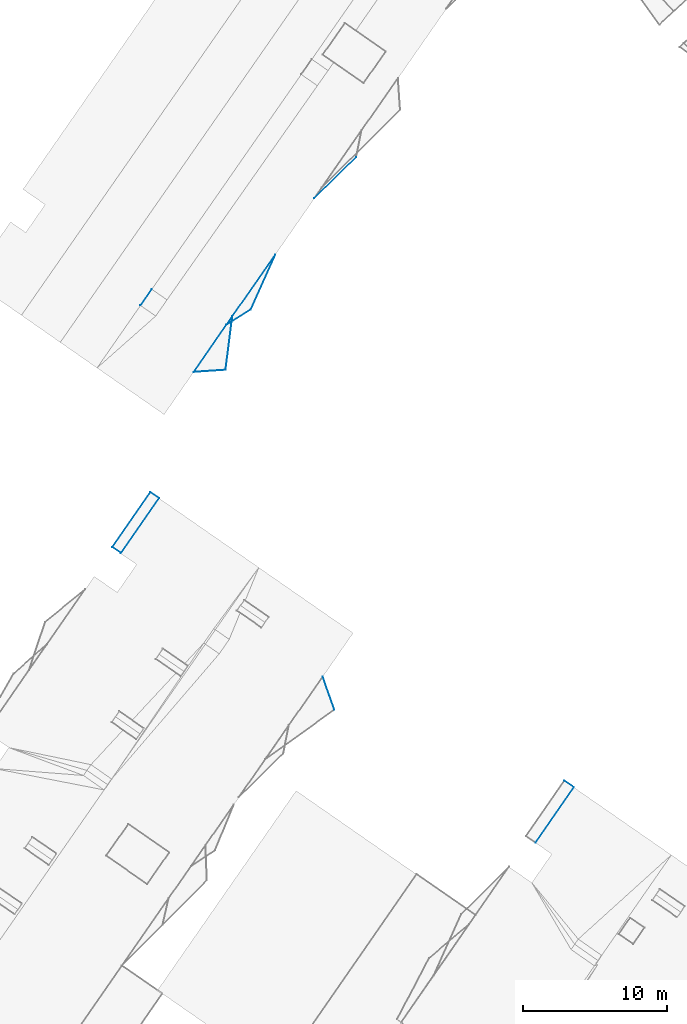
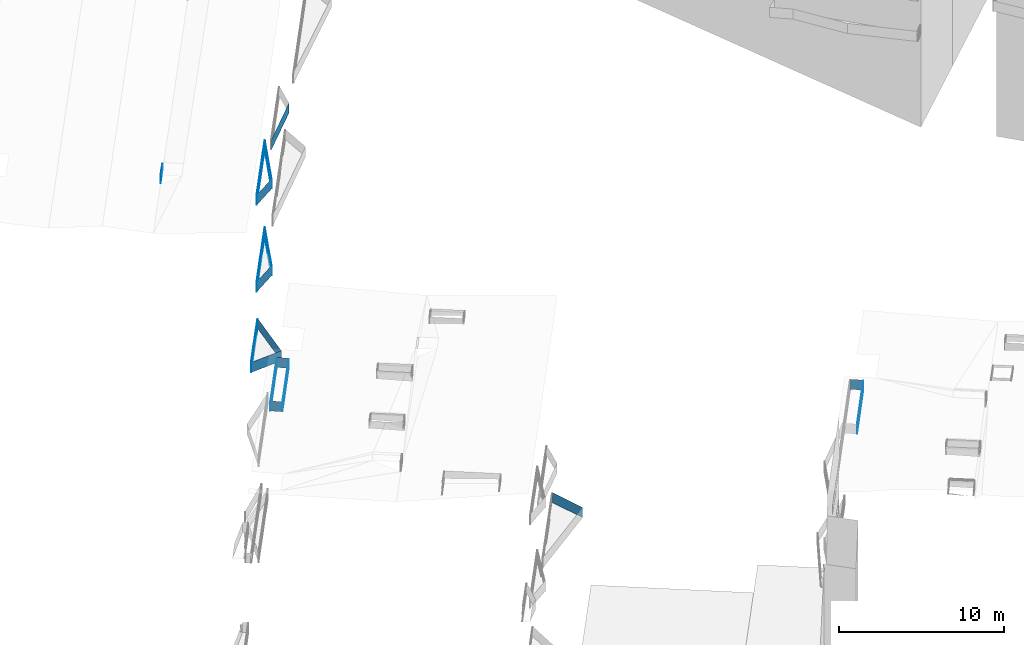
# Not in any storey, part 43 of 136: 41 walls.
"""IFC4 building model written with IfcOpenShell, lengths in metres."""

from ifc_helpers import new_model, entity, si_unit, converted_unit, frame, origin, place, context, subcontext, project, spatial, face_set, surface_model, element, save


model = new_model("IFC4")

# Units and contexts
model_context = context("Model", 3, precision=1e-05, world=origin())
body_context = subcontext(model_context, "Body", "Model", "MODEL_VIEW")
ifc_project = project(units=[converted_unit("PLANEANGLEUNIT", "DEGREE", entity("IfcRatioMeasure", 0.0174532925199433), si_unit("PLANEANGLEUNIT", "RADIAN"), dimensions=[0, 0, 0, 0, 0, 0, 0]), si_unit("AREAUNIT", "SQUARE_METRE"), si_unit("LENGTHUNIT", "METRE")], contexts=[model_context])

# Site, building
site_placement = place(None, origin())
site = spatial("IfcSite", under=ifc_project, at=site_placement, Name="_site")
building_1_placement = place(site_placement, origin())
building_1 = spatial("IfcBuilding", under=site, at=building_1_placement, Name="_building")

# Walls
wall_1_placement = place(building_1_placement, origin())
element("IfcWall", 1, at=wall_1_placement, inside=building_1, Name="Wall", PredefinedType="NOTDEFINED", context=body_context, shape_type="SurfaceModel", body=[
    surface_model("IfcFaceBasedSurfaceModel", [(-8.21, 74.97, 48.01), (-10.87, 71.13, 48.01), (-10.87, 71.13, 48.76), (-8.21, 74.97, 48.76)], [face_set([[[0, 1, 2, 3]]])]),
])
for number, where, name in (
    (2, (0.0, 0.0, 0.0), "Wall"),
    (3, (0.0, 0.0, 0.0), "Wall"),
):
    element("IfcWall", number, at=place(building_1_placement, frame(where)), inside=building_1, Name=name, PredefinedType="NOTDEFINED", context=body_context, shape_type="SurfaceModel", body=[
        surface_model("IfcFaceBasedSurfaceModel", [(-8.87, 75.43, 48.01), (-8.21, 74.97, 48.01), (-8.21, 74.97, 48.76), (-8.87, 75.43, 48.76)], [face_set([[[0, 1, 2, 3]]])]),
    ])
wall_2_placement = place(building_1_placement, origin())
element("IfcWall", 4, at=wall_2_placement, inside=building_1, Name="Wall", PredefinedType="NOTDEFINED", context=body_context, shape_type="SurfaceModel", body=[
    surface_model("IfcFaceBasedSurfaceModel", [(-8.21, 74.97, 48.01), (-10.87, 71.13, 48.01), (-10.87, 71.13, 48.76), (-8.21, 74.97, 48.76)], [face_set([[[0, 1, 2, 3]]])]),
])

# Building
building_2_placement = place(site_placement, origin())
building_2 = spatial("IfcBuilding", under=site, at=building_2_placement, Name="_building")

# Walls
wall_3_placement = place(building_2_placement, origin())
element("IfcWall", 5, at=wall_3_placement, inside=building_2, Name="Wall", PredefinedType="NOTDEFINED", context=body_context, shape_type="SurfaceModel", body=[
    surface_model("IfcFaceBasedSurfaceModel", [(-30.61, 108.09, 50.71), (-32.29, 107.021, 50.71), (-32.29, 107.021, 51.46), (-30.61, 108.09, 51.46)], [face_set([[[0, 1, 2, 3]]])]),
])
wall_4_placement = place(building_2_placement, origin())
element("IfcWall", 6, at=wall_4_placement, inside=building_2, Name="Wall", PredefinedType="NOTDEFINED", context=body_context, shape_type="SurfaceModel", body=[
    surface_model("IfcFaceBasedSurfaceModel", [(-31.88, 107.61, 50.71), (-28.9, 111.89, 50.71), (-28.9, 111.89, 51.46), (-31.88, 107.61, 51.46)], [face_set([[[0, 1, 2, 3]]])]),
])
wall_5_placement = place(building_2_placement, origin())
element("IfcWall", 7, at=wall_5_placement, inside=building_2, Name="Wall", PredefinedType="NOTDEFINED", context=body_context, shape_type="SurfaceModel", body=[
    surface_model("IfcFaceBasedSurfaceModel", [(-32.29, 107.021, 50.71), (-31.88, 107.61, 50.71), (-31.88, 107.61, 51.46), (-32.29, 107.021, 51.46)], [face_set([[[0, 1, 2, 3]]])]),
])
wall_6_placement = place(building_2_placement, origin())
element("IfcWall", 8, at=wall_6_placement, inside=building_2, Name="Wall", PredefinedType="NOTDEFINED", context=body_context, shape_type="SurfaceModel", body=[
    surface_model("IfcFaceBasedSurfaceModel", [(-30.61, 108.09, 50.71), (-32.29, 107.021, 50.71), (-32.29, 107.021, 51.46), (-30.61, 108.09, 51.46)], [face_set([[[0, 1, 2, 3]]])]),
])
wall_7_placement = place(building_2_placement, origin())
element("IfcWall", 9, at=wall_7_placement, inside=building_2, Name="Wall", PredefinedType="NOTDEFINED", context=body_context, shape_type="SurfaceModel", body=[
    surface_model("IfcFaceBasedSurfaceModel", [(-32.29, 107.021, 50.71), (-31.88, 107.61, 50.71), (-31.88, 107.61, 51.46), (-32.29, 107.021, 51.46)], [face_set([[[0, 1, 2, 3]]])]),
])
wall_8_placement = place(building_2_placement, origin())
element("IfcWall", 10, at=wall_8_placement, inside=building_2, Name="Wall", PredefinedType="NOTDEFINED", context=body_context, shape_type="SurfaceModel", body=[
    surface_model("IfcFaceBasedSurfaceModel", [(-28.9, 111.89, 50.71), (-30.61, 108.09, 50.71), (-30.61, 108.09, 51.46), (-28.9, 111.89, 51.46)], [face_set([[[0, 1, 2, 3]]])]),
])
wall_9_placement = place(building_2_placement, origin())
element("IfcWall", 11, at=wall_9_placement, inside=building_2, Name="Wall", PredefinedType="NOTDEFINED", context=body_context, shape_type="SurfaceModel", body=[
    surface_model("IfcFaceBasedSurfaceModel", [(-28.9, 111.89, 44.27), (-30.61, 108.09, 44.27), (-30.61, 108.09, 45.02), (-28.9, 111.89, 45.02)], [face_set([[[0, 1, 2, 3]]])]),
])
wall_10_placement = place(building_2_placement, origin())
element("IfcWall", 12, at=wall_10_placement, inside=building_2, Name="Wall", PredefinedType="NOTDEFINED", context=body_context, shape_type="SurfaceModel", body=[
    surface_model("IfcFaceBasedSurfaceModel", [(-31.88, 107.61, 41.08), (-32.35, 103.91, 41.08), (-32.35, 103.91, 41.83), (-31.88, 107.61, 41.83)], [face_set([[[0, 1, 2, 3]]])]),
])
wall_11_placement = place(building_2_placement, origin())
element("IfcWall", 13, at=wall_11_placement, inside=building_2, Name="Wall", PredefinedType="NOTDEFINED", context=body_context, shape_type="SurfaceModel", body=[
    surface_model("IfcFaceBasedSurfaceModel", [(-34.56, 103.76, 41.08), (-32.29, 107.021, 41.08), (-32.29, 107.021, 41.83), (-34.56, 103.76, 41.83)], [face_set([[[0, 1, 2, 3]]])]),
])
wall_12_placement = place(building_2_placement, origin())
element("IfcWall", 14, at=wall_12_placement, inside=building_2, Name="Wall", PredefinedType="NOTDEFINED", context=body_context, shape_type="SurfaceModel", body=[
    surface_model("IfcFaceBasedSurfaceModel", [(-31.88, 107.61, 41.08), (-32.35, 103.91, 41.08), (-32.35, 103.91, 41.83), (-31.88, 107.61, 41.83)], [face_set([[[0, 1, 2, 3]]])]),
])
wall_13_placement = place(building_2_placement, origin())
element("IfcWall", 15, at=wall_13_placement, inside=building_2, Name="Wall", PredefinedType="NOTDEFINED", context=body_context, shape_type="SurfaceModel", body=[
    surface_model("IfcFaceBasedSurfaceModel", [(-34.56, 103.76, 41.08), (-32.29, 107.021, 41.08), (-32.29, 107.021, 41.83), (-34.56, 103.76, 41.83)], [face_set([[[0, 1, 2, 3]]])]),
])
for number, where, name in (
    (16, (0.0, 0.0, 0.0), "Wall"),
    (17, (0.0, 0.0, 0.0), "Wall"),
):
    element("IfcWall", number, at=place(building_2_placement, frame(where)), inside=building_2, Name=name, PredefinedType="NOTDEFINED", context=body_context, shape_type="SurfaceModel", body=[
        surface_model("IfcFaceBasedSurfaceModel", [(-23.3, 118.65, 47.36), (-26.19, 115.8, 47.36), (-26.19, 115.8, 48.11), (-23.3, 118.65, 48.11)], [face_set([[[0, 1, 2, 3]]])]),
    ])
wall_14_placement = place(building_2_placement, origin())
element("IfcWall", 18, at=wall_14_placement, inside=building_2, Name="Wall", PredefinedType="NOTDEFINED", context=body_context, shape_type="SurfaceModel", body=[
    surface_model("IfcFaceBasedSurfaceModel", [(-28.9, 111.89, 50.71), (-30.61, 108.09, 50.71), (-30.61, 108.09, 51.46), (-28.9, 111.89, 51.46)], [face_set([[[0, 1, 2, 3]]])]),
])
wall_15_placement = place(building_2_placement, origin())
element("IfcWall", 19, at=wall_15_placement, inside=building_2, Name="Wall", PredefinedType="NOTDEFINED", context=body_context, shape_type="SurfaceModel", body=[
    surface_model("IfcFaceBasedSurfaceModel", [(-31.88, 107.61, 50.71), (-28.9, 111.89, 50.71), (-28.9, 111.89, 51.46), (-31.88, 107.61, 51.46)], [face_set([[[0, 1, 2, 3]]])]),
])
wall_16_placement = place(building_2_placement, origin())
element("IfcWall", 20, at=wall_16_placement, inside=building_2, Name="Wall", PredefinedType="NOTDEFINED", context=body_context, shape_type="SurfaceModel", body=[
    surface_model("IfcFaceBasedSurfaceModel", [(-38.249, 108.369, 54.2), (-37.463, 109.492, 54.2), (-37.463, 109.492, 53.58), (-38.249, 108.369, 53.58)], [face_set([[[0, 1, 2, 3]]])]),
])
wall_17_placement = place(building_2_placement, origin())
element("IfcWall", 21, at=wall_17_placement, inside=building_2, Name="Wall", PredefinedType="NOTDEFINED", context=body_context, shape_type="SurfaceModel", body=[
    surface_model("IfcFaceBasedSurfaceModel", [(-30.61, 108.09, 44.27), (-32.29, 107.021, 44.27), (-32.29, 107.021, 45.02), (-30.61, 108.09, 45.02)], [face_set([[[0, 1, 2, 3]]])]),
])
wall_18_placement = place(building_2_placement, origin())
element("IfcWall", 22, at=wall_18_placement, inside=building_2, Name="Wall", PredefinedType="NOTDEFINED", context=body_context, shape_type="SurfaceModel", body=[
    surface_model("IfcFaceBasedSurfaceModel", [(-31.88, 107.61, 44.27), (-28.9, 111.89, 44.27), (-28.9, 111.89, 45.02), (-31.88, 107.61, 45.02)], [face_set([[[0, 1, 2, 3]]])]),
])
wall_19_placement = place(building_2_placement, origin())
element("IfcWall", 23, at=wall_19_placement, inside=building_2, Name="Wall", PredefinedType="NOTDEFINED", context=body_context, shape_type="SurfaceModel", body=[
    surface_model("IfcFaceBasedSurfaceModel", [(-32.29, 107.021, 44.27), (-31.88, 107.61, 44.27), (-31.88, 107.61, 45.02), (-32.29, 107.021, 45.02)], [face_set([[[0, 1, 2, 3]]])]),
])
wall_20_placement = place(building_2_placement, origin())
element("IfcWall", 24, at=wall_20_placement, inside=building_2, Name="Wall", PredefinedType="NOTDEFINED", context=body_context, shape_type="SurfaceModel", body=[
    surface_model("IfcFaceBasedSurfaceModel", [(-30.61, 108.09, 44.27), (-32.29, 107.021, 44.27), (-32.29, 107.021, 45.02), (-30.61, 108.09, 45.02)], [face_set([[[0, 1, 2, 3]]])]),
])
wall_21_placement = place(building_2_placement, origin())
element("IfcWall", 25, at=wall_21_placement, inside=building_2, Name="Wall", PredefinedType="NOTDEFINED", context=body_context, shape_type="SurfaceModel", body=[
    surface_model("IfcFaceBasedSurfaceModel", [(-28.9, 111.89, 44.27), (-30.61, 108.09, 44.27), (-30.61, 108.09, 45.02), (-28.9, 111.89, 45.02)], [face_set([[[0, 1, 2, 3]]])]),
])
wall_22_placement = place(building_2_placement, origin())
element("IfcWall", 26, at=wall_22_placement, inside=building_2, Name="Wall", PredefinedType="NOTDEFINED", context=body_context, shape_type="SurfaceModel", body=[
    surface_model("IfcFaceBasedSurfaceModel", [(-31.88, 107.61, 44.27), (-28.9, 111.89, 44.27), (-28.9, 111.89, 45.02), (-31.88, 107.61, 45.02)], [face_set([[[0, 1, 2, 3]]])]),
])
wall_23_placement = place(building_2_placement, origin())
element("IfcWall", 27, at=wall_23_placement, inside=building_2, Name="Wall", PredefinedType="NOTDEFINED", context=body_context, shape_type="SurfaceModel", body=[
    surface_model("IfcFaceBasedSurfaceModel", [(-32.29, 107.021, 44.27), (-31.88, 107.61, 44.27), (-31.88, 107.61, 45.02), (-32.29, 107.021, 45.02)], [face_set([[[0, 1, 2, 3]]])]),
])
wall_24_placement = place(building_2_placement, origin())
element("IfcWall", 28, at=wall_24_placement, inside=building_2, Name="Wall", PredefinedType="NOTDEFINED", context=body_context, shape_type="SurfaceModel", body=[
    surface_model("IfcFaceBasedSurfaceModel", [(-32.35, 103.91, 41.08), (-34.56, 103.76, 41.08), (-34.56, 103.76, 41.83), (-32.35, 103.91, 41.83)], [face_set([[[0, 1, 2, 3]]])]),
])
for number, where, name in (
    (29, (0.0, 0.0, 0.0), "Wall"),
    (30, (0.0, 0.0, 0.0), "Wall"),
):
    element("IfcWall", number, at=place(building_2_placement, frame(where)), inside=building_2, Name=name, PredefinedType="NOTDEFINED", context=body_context, shape_type="SurfaceModel", body=[
        surface_model("IfcFaceBasedSurfaceModel", [(-32.29, 107.021, 41.08), (-31.88, 107.61, 41.08), (-31.88, 107.61, 41.83), (-32.29, 107.021, 41.83)], [face_set([[[0, 1, 2, 3]]])]),
    ])
wall_25_placement = place(building_2_placement, origin())
element("IfcWall", 31, at=wall_25_placement, inside=building_2, Name="Wall", PredefinedType="NOTDEFINED", context=body_context, shape_type="SurfaceModel", body=[
    surface_model("IfcFaceBasedSurfaceModel", [(-32.35, 103.91, 41.08), (-34.56, 103.76, 41.08), (-34.56, 103.76, 41.83), (-32.35, 103.91, 41.83)], [face_set([[[0, 1, 2, 3]]])]),
])

# Building
building_3_placement = place(site_placement, origin())
building_3 = spatial("IfcBuilding", under=site, at=building_3_placement, Name="_building")

# Walls
for number, where, name in (
    (32, (0.0, 0.0, 0.0), "Wall"),
    (33, (0.0, 0.0, 0.0), "Wall"),
):
    element("IfcWall", number, at=place(building_3_placement, frame(where)), inside=building_3, Name=name, PredefinedType="NOTDEFINED", context=body_context, shape_type="SurfaceModel", body=[
        surface_model("IfcFaceBasedSurfaceModel", [(-25.61, 82.64, 41.1), (-24.81, 80.351, 41.1), (-24.81, 80.351, 41.85), (-25.61, 82.64, 41.85)], [face_set([[[0, 1, 2, 3]]])]),
    ])
for number, where, name in (
    (34, (0.0, 0.0, 0.0), "Wall"),
    (35, (0.0, 0.0, 0.0), "Wall"),
):
    element("IfcWall", number, at=place(building_3_placement, frame(where)), inside=building_3, Name=name, PredefinedType="NOTDEFINED", context=body_context, shape_type="SurfaceModel", body=[
        surface_model("IfcFaceBasedSurfaceModel", [(-40.2, 91.63, 47.55), (-37.56, 95.43, 47.55), (-37.56, 95.43, 48.3), (-40.2, 91.63, 48.3)], [face_set([[[0, 1, 2, 3]]])]),
    ])
wall_26_placement = place(building_3_placement, origin())
element("IfcWall", 36, at=wall_26_placement, inside=building_3, Name="Wall", PredefinedType="NOTDEFINED", context=body_context, shape_type="SurfaceModel", body=[
    surface_model("IfcFaceBasedSurfaceModel", [(-37.56, 95.43, 47.55), (-36.96, 95.01, 47.55), (-36.96, 95.01, 48.3), (-37.56, 95.43, 48.3)], [face_set([[[0, 1, 2, 3]]])]),
])
wall_27_placement = place(building_3_placement, origin())
element("IfcWall", 37, at=wall_27_placement, inside=building_3, Name="Wall", PredefinedType="NOTDEFINED", context=body_context, shape_type="SurfaceModel", body=[
    surface_model("IfcFaceBasedSurfaceModel", [(-39.6, 91.21, 47.55), (-40.2, 91.63, 47.55), (-40.2, 91.63, 48.3), (-39.6, 91.21, 48.3)], [face_set([[[0, 1, 2, 3]]])]),
])
wall_28_placement = place(building_3_placement, origin())
element("IfcWall", 38, at=wall_28_placement, inside=building_3, Name="Wall", PredefinedType="NOTDEFINED", context=body_context, shape_type="SurfaceModel", body=[
    surface_model("IfcFaceBasedSurfaceModel", [(-36.96, 95.01, 47.55), (-39.6, 91.21, 47.55), (-39.6, 91.21, 48.3), (-36.96, 95.01, 48.3)], [face_set([[[0, 1, 2, 3]]])]),
])
wall_29_placement = place(building_3_placement, origin())
element("IfcWall", 39, at=wall_29_placement, inside=building_3, Name="Wall", PredefinedType="NOTDEFINED", context=body_context, shape_type="SurfaceModel", body=[
    surface_model("IfcFaceBasedSurfaceModel", [(-37.56, 95.43, 47.55), (-36.96, 95.01, 47.55), (-36.96, 95.01, 48.3), (-37.56, 95.43, 48.3)], [face_set([[[0, 1, 2, 3]]])]),
])
wall_30_placement = place(building_3_placement, origin())
element("IfcWall", 40, at=wall_30_placement, inside=building_3, Name="Wall", PredefinedType="NOTDEFINED", context=body_context, shape_type="SurfaceModel", body=[
    surface_model("IfcFaceBasedSurfaceModel", [(-39.6, 91.21, 47.55), (-40.2, 91.63, 47.55), (-40.2, 91.63, 48.3), (-39.6, 91.21, 48.3)], [face_set([[[0, 1, 2, 3]]])]),
])
wall_31_placement = place(building_3_placement, origin())
element("IfcWall", 41, at=wall_31_placement, inside=building_3, Name="Wall", PredefinedType="NOTDEFINED", context=body_context, shape_type="SurfaceModel", body=[
    surface_model("IfcFaceBasedSurfaceModel", [(-36.96, 95.01, 47.55), (-39.6, 91.21, 47.55), (-39.6, 91.21, 48.3), (-36.96, 95.01, 48.3)], [face_set([[[0, 1, 2, 3]]])]),
])

save(model, "model.ifc")
